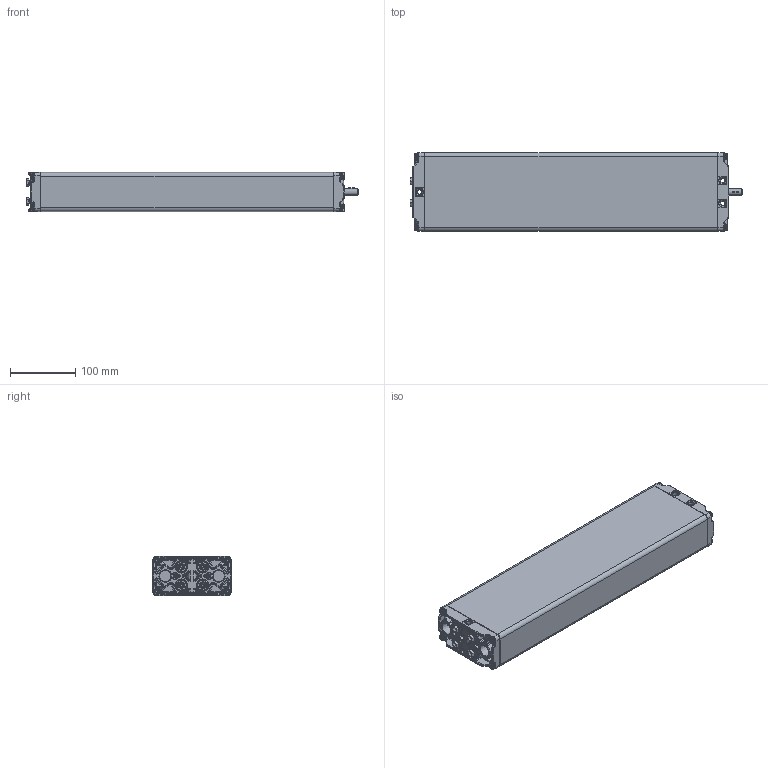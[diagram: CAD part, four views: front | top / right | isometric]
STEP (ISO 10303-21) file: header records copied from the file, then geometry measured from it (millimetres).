
FILE_DESCRIPTION(/* description */ ('Unknown'),/* implementation_level */ '2;1');
FILE_NAME(/* name */ '102.20003 Pumpe PB 4830 W',/* time_stamp */ '2016-09-01T15:37:11+02:00',/* author */ ('Unknown'),/* organization */ ('Unknown'),/* preprocessor_version */ 'ST-DEVELOPER v16.7',/* originating_system */ 'DEX',/* authorisation */ $);
FILE_SCHEMA (('AUTOMOTIVE_DESIGN {1 0 10303 214 3 1 1}'));
Products named in the file (14): 102.20003; 115.00033; 125.00045; 115.00008; 142.00021; 125.00021; 142.00013; 125.00143; 115.00140; 126.00006; 122.00040; 119.00043; 126.00005; 142.00057
Assembly tree (23 placements, depth 3):
  102.20003
    115.00033  x4
      125.00045
      115.00008
      142.00021
      125.00021
    142.00013  x8
    125.00143
    115.00140
      126.00006
      122.00040
    119.00043
    126.00005
    142.00057
Bounding box: 509.47 x 120 x 60.3 mm (x, y, z)
Volume: 640187.4 mm3; surface area: 430107.3 mm2
Topology: 26 solids, 26 shells, 2494 faces, 5921 edges, 3404 vertices
Faces by surface type: bspline 704, plane 659, cylinder 554, cone 347, torus 172, sphere 58
Full cylindrical faces by diameter (mm): 3.5 x4, 4.1 x4, 4.2 x4, 5 x8, 6.917 x8, 8 x9, 9.8 x8, 10 x3, 10.4 x1, 14 x1, 14.4 x4, 17.3 x4, 17.9 x8, 18 x1, 19 x1
Entity records: 97534 total; most frequent: CARTESIAN_POINT 54063, ORIENTED_EDGE 8234, DIRECTION 6551, EDGE_CURVE 4117, AXIS2_PLACEMENT_3D 2633, VERTEX_POINT 2519, FACE_BOUND 1980, EDGE_LOOP 1979
